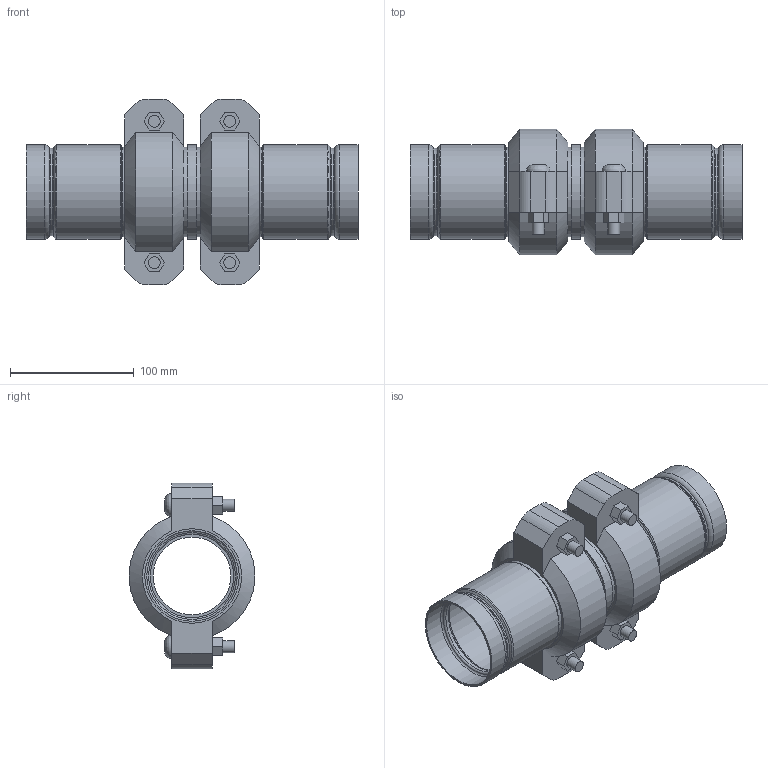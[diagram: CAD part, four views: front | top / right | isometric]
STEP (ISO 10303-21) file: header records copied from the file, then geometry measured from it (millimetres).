
FILE_DESCRIPTION(/* description */ ('VIC STRENGTHIN 100 EXPANSION JOINT 2 COUPLINGS EXPANDED STYLE E155 (ST1)','CAx-IF Rec.Pracs.---Representation and Presentation of Product Manufacturing Information (PMI)---4.0---2014-10-13'),/* implementation_level */ '2;1');
FILE_NAME(/* name */ 'C:\Users\Vjadhav\AppData\Roaming\Autodesk\ApplicationPlugins\Victaulic.Temp\A901\Victaulic_SS-StrengThin 100_Expansion Joint_Expanded_2 Couplings_Style E155 (ST1)_02.5 (76.1) (65).stp',/* time_stamp */ '2021-07-23T19:26:52+06:00',/* author */ ('kkamble'),/* organization */ ('Victaulic'),/* preprocessor_version */ 'ST-DEVELOPER v17.2',/* originating_system */ 'Autodesk Inventor 2019',/* authorisation */ '');
FILE_SCHEMA (('AP242_MANAGED_MODEL_BASED_3D_ENGINEERING_MIM_LF { 1 0 10303 442 1 1 4 }'));
Length unit declared in the file: inch
Products named in the file (4): E155-02.5 (76.1); E494G-02.5 (76.1); Nipple-02.5 (76.1); 075-02.5 (76.1)
Assembly tree (5 placements, depth 2):
  E155-02.5 (76.1)
    E494G-02.5 (76.1)  x2
    Nipple-02.5 (76.1)
    075-02.5 (76.1)  x2
Bounding box: 267.97 x 101.25 x 149.86 mm (x, y, z)
Volume: 597304.6 mm3; surface area: 220861.3 mm2
Topology: 5 solids, 9 shells, 194 faces, 526 edges, 374 vertices
Faces by surface type: plane 90, cylinder 56, torus 32, cone 12, bspline 4
Full cylindrical faces by diameter (mm): 9.525 x8, 11.43 x4, 62.713 x1, 67.158 x2, 69.063 x2, 69.85 x2, 70.358 x2, 72.263 x4, 73 x6, 76.2 x13
Entity records: 3752 total; most frequent: CARTESIAN_POINT 683, DIRECTION 655, ORIENTED_EDGE 556, EDGE_CURVE 278, AXIS2_PLACEMENT_3D 277, VERTEX_POINT 199, CIRCLE 167, EDGE_LOOP 127
